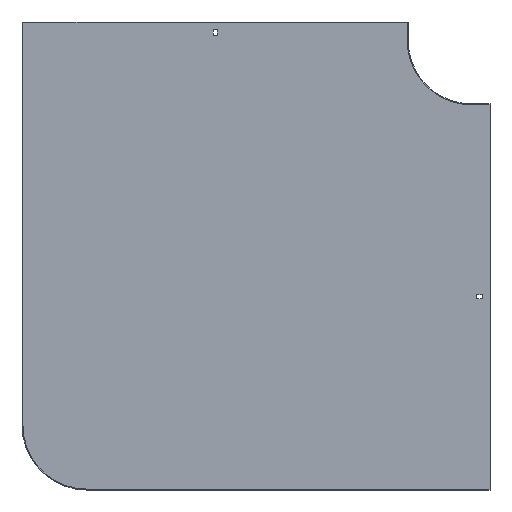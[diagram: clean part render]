
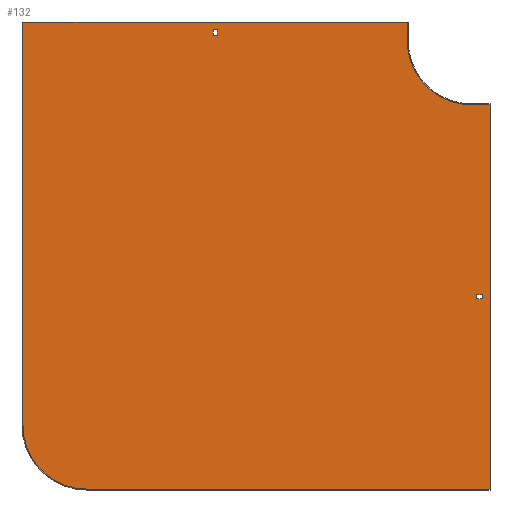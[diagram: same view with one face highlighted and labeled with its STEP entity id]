
A CAD part, front view. The second image highlights one B-rep face of the part: STEP entity #132.
In plain terms, the highlighted planar face has unit normal (0, -1, 0).
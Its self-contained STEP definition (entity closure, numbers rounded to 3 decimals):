
#2 = EDGE_CURVE ( 'NONE', #245, #785, #105, .T. ) ;
#11 = LINE ( 'NONE', #545, #803 ) ;
#12 = CARTESIAN_POINT ( 'NONE',  ( 9., -1.5, -398.75 ) ) ;
#16 = VERTEX_POINT ( 'NONE', #650 ) ;
#17 = VECTOR ( 'NONE', #227, 1000. ) ;
#18 = LINE ( 'NONE', #294, #147 ) ;
#20 = EDGE_CURVE ( 'NONE', #203, #245, #52, .T. ) ;
#21 = VECTOR ( 'NONE', #283, 1000. ) ;
#22 = ORIENTED_EDGE ( 'NONE', *, *, #773, .F. ) ;
#27 = ORIENTED_EDGE ( 'NONE', *, *, #555, .F. ) ;
#51 = CARTESIAN_POINT ( 'NONE',  ( -405.25, -1.5, 9. ) ) ;
#52 = LINE ( 'NONE', #594, #450 ) ;
#58 = EDGE_CURVE ( 'NONE', #239, #442, #133, .T. ) ;
#62 = EDGE_LOOP ( 'NONE', ( #492, #768, #27, #802, #711, #604, #847, #22 ) ) ;
#69 = CARTESIAN_POINT ( 'NONE',  ( 18., -1.5, -405.25 ) ) ;
#88 = ORIENTED_EDGE ( 'NONE', *, *, #697, .F. ) ;
#93 = EDGE_LOOP ( 'NONE', ( #262, #88, #159, #541 ) ) ;
#96 = EDGE_LOOP ( 'NONE', ( #112, #293, #770, #692 ) ) ;
#97 = VECTOR ( 'NONE', #859, 1000. ) ;
#105 = LINE ( 'NONE', #320, #814 ) ;
#110 = CARTESIAN_POINT ( 'NONE',  ( 30., -1.5, -704. ) ) ;
#112 = ORIENTED_EDGE ( 'NONE', *, *, #291, .T. ) ;
#113 = CARTESIAN_POINT ( 'NONE',  ( -405.25, -1.5, 18. ) ) ;
#126 = VERTEX_POINT ( 'NONE', #432 ) ;
#132 = ADVANCED_FACE ( 'NONE', ( #559, #295, #554 ), #163, .T. ) ;
#133 = LINE ( 'NONE', #201, #97 ) ;
#137 = VECTOR ( 'NONE', #171, 1000. ) ;
#147 = VECTOR ( 'NONE', #751, 1000. ) ;
#154 = CARTESIAN_POINT ( 'NONE',  ( -100., -1.5, 30. ) ) ;
#159 = ORIENTED_EDGE ( 'NONE', *, *, #529, .F. ) ;
#161 = CARTESIAN_POINT ( 'NONE',  ( 0., -1.5, 18. ) ) ;
#163 = PLANE ( 'NONE',  #727 ) ;
#171 = DIRECTION ( 'NONE',  ( -1., 0., 0. ) ) ;
#183 = CARTESIAN_POINT ( 'NONE',  ( 30., -1.5, -704. ) ) ;
#197 = LINE ( 'NONE', #110, #137 ) ;
#201 = CARTESIAN_POINT ( 'NONE',  ( 0., -1.5, 9. ) ) ;
#203 = VERTEX_POINT ( 'NONE', #460 ) ;
#227 = DIRECTION ( 'NONE',  ( 1., 0., 0. ) ) ;
#239 = VERTEX_POINT ( 'NONE', #528 ) ;
#240 = VERTEX_POINT ( 'NONE', #69 ) ;
#244 = DIRECTION ( 'NONE',  ( 0., 0., -1. ) ) ;
#245 = VERTEX_POINT ( 'NONE', #467 ) ;
#262 = ORIENTED_EDGE ( 'NONE', *, *, #405, .F. ) ;
#273 = CARTESIAN_POINT ( 'NONE',  ( -604., -1.5, -704. ) ) ;
#276 = VERTEX_POINT ( 'NONE', #273 ) ;
#283 = DIRECTION ( 'NONE',  ( 0., 0., -1. ) ) ;
#285 = EDGE_CURVE ( 'NONE', #442, #360, #11, .T. ) ;
#291 = EDGE_CURVE ( 'NONE', #360, #479, #748, .T. ) ;
#293 = ORIENTED_EDGE ( 'NONE', *, *, #299, .T. ) ;
#294 = CARTESIAN_POINT ( 'NONE',  ( -398.75, -1.5, 0. ) ) ;
#295 = FACE_OUTER_BOUND ( 'NONE', #62, .T. ) ;
#299 = EDGE_CURVE ( 'NONE', #479, #239, #18, .T. ) ;
#301 = DIRECTION ( 'NONE',  ( 1., 0., 0. ) ) ;
#305 = VECTOR ( 'NONE', #301, 1000. ) ;
#308 = CIRCLE ( 'NONE', #756, 100. ) ;
#319 = DIRECTION ( 'NONE',  ( -1., 0., 0. ) ) ;
#320 = CARTESIAN_POINT ( 'NONE',  ( -705.5, -1.5, 30. ) ) ;
#344 = CARTESIAN_POINT ( 'NONE',  ( -100., -1.5, 30. ) ) ;
#360 = VERTEX_POINT ( 'NONE', #113 ) ;
#362 = DIRECTION ( 'NONE',  ( 0., -1., 0. ) ) ;
#378 = CARTESIAN_POINT ( 'NONE',  ( -604., -1.5, -604. ) ) ;
#387 = DIRECTION ( 'NONE',  ( 1., 0., 0. ) ) ;
#405 = EDGE_CURVE ( 'NONE', #517, #639, #579, .T. ) ;
#411 = CARTESIAN_POINT ( 'NONE',  ( 9., -1.5, -405.25 ) ) ;
#413 = DIRECTION ( 'NONE',  ( 0., 0., -1. ) ) ;
#423 = DIRECTION ( 'NONE',  ( 0., 0., -1. ) ) ;
#429 = CARTESIAN_POINT ( 'NONE',  ( 0., -1.5, 0. ) ) ;
#432 = CARTESIAN_POINT ( 'NONE',  ( -100., -1.5, 0. ) ) ;
#442 = VERTEX_POINT ( 'NONE', #51 ) ;
#450 = VECTOR ( 'NONE', #843, 1000. ) ;
#460 = CARTESIAN_POINT ( 'NONE',  ( -704., -1.5, -604. ) ) ;
#467 = CARTESIAN_POINT ( 'NONE',  ( -704., -1.5, 30. ) ) ;
#468 = EDGE_CURVE ( 'NONE', #639, #763, #696, .T. ) ;
#470 = CARTESIAN_POINT ( 'NONE',  ( 30., -1.5, -98.5 ) ) ;
#475 = VECTOR ( 'NONE', #319, 1000. ) ;
#477 = DIRECTION ( 'NONE',  ( 0., 0., 1. ) ) ;
#479 = VERTEX_POINT ( 'NONE', #510 ) ;
#492 = ORIENTED_EDGE ( 'NONE', *, *, #2, .F. ) ;
#499 = VERTEX_POINT ( 'NONE', #183 ) ;
#500 = VECTOR ( 'NONE', #501, 1000. ) ;
#501 = DIRECTION ( 'NONE',  ( 1., 0., 0. ) ) ;
#503 = AXIS2_PLACEMENT_3D ( 'NONE', #378, #630, #786 ) ;
#510 = CARTESIAN_POINT ( 'NONE',  ( -398.75, -1.5, 18. ) ) ;
#517 = VERTEX_POINT ( 'NONE', #590 ) ;
#528 = CARTESIAN_POINT ( 'NONE',  ( -398.75, -1.5, 9. ) ) ;
#529 = EDGE_CURVE ( 'NONE', #763, #240, #563, .T. ) ;
#541 = ORIENTED_EDGE ( 'NONE', *, *, #468, .F. ) ;
#545 = CARTESIAN_POINT ( 'NONE',  ( -405.25, -1.5, 0. ) ) ;
#547 = VECTOR ( 'NONE', #477, 1000. ) ;
#550 = EDGE_CURVE ( 'NONE', #126, #616, #308, .T. ) ;
#554 = FACE_BOUND ( 'NONE', #96, .T. ) ;
#555 = EDGE_CURVE ( 'NONE', #276, #203, #752, .T. ) ;
#556 = CARTESIAN_POINT ( 'NONE',  ( 0., -1.5, 0. ) ) ;
#559 = FACE_BOUND ( 'NONE', #93, .T. ) ;
#563 = LINE ( 'NONE', #746, #17 ) ;
#569 = CARTESIAN_POINT ( 'NONE',  ( 0., -1.5, -398.75 ) ) ;
#576 = EDGE_CURVE ( 'NONE', #499, #276, #197, .T. ) ;
#579 = LINE ( 'NONE', #569, #475 ) ;
#590 = CARTESIAN_POINT ( 'NONE',  ( 18., -1.5, -398.75 ) ) ;
#594 = CARTESIAN_POINT ( 'NONE',  ( -704., -1.5, -604. ) ) ;
#604 = ORIENTED_EDGE ( 'NONE', *, *, #823, .F. ) ;
#616 = VERTEX_POINT ( 'NONE', #841 ) ;
#624 = CARTESIAN_POINT ( 'NONE',  ( 0., -1.5, -100. ) ) ;
#627 = CARTESIAN_POINT ( 'NONE',  ( 9., -1.5, 0. ) ) ;
#630 = DIRECTION ( 'NONE',  ( 0., 1., 0. ) ) ;
#639 = VERTEX_POINT ( 'NONE', #12 ) ;
#650 = CARTESIAN_POINT ( 'NONE',  ( 30., -1.5, -100. ) ) ;
#670 = LINE ( 'NONE', #470, #694 ) ;
#673 = LINE ( 'NONE', #154, #21 ) ;
#692 = ORIENTED_EDGE ( 'NONE', *, *, #285, .T. ) ;
#694 = VECTOR ( 'NONE', #413, 1000. ) ;
#696 = LINE ( 'NONE', #627, #737 ) ;
#697 = EDGE_CURVE ( 'NONE', #240, #517, #717, .T. ) ;
#711 = ORIENTED_EDGE ( 'NONE', *, *, #766, .F. ) ;
#717 = LINE ( 'NONE', #855, #547 ) ;
#722 = DIRECTION ( 'NONE',  ( 0., 0., -1. ) ) ;
#727 = AXIS2_PLACEMENT_3D ( 'NONE', #429, #362, #423 ) ;
#737 = VECTOR ( 'NONE', #244, 1000. ) ;
#746 = CARTESIAN_POINT ( 'NONE',  ( 0., -1.5, -405.25 ) ) ;
#748 = LINE ( 'NONE', #161, #305 ) ;
#751 = DIRECTION ( 'NONE',  ( 0., 0., -1. ) ) ;
#752 = CIRCLE ( 'NONE', #503, 100. ) ;
#756 = AXIS2_PLACEMENT_3D ( 'NONE', #556, #851, #722 ) ;
#763 = VERTEX_POINT ( 'NONE', #411 ) ;
#766 = EDGE_CURVE ( 'NONE', #16, #499, #670, .T. ) ;
#768 = ORIENTED_EDGE ( 'NONE', *, *, #20, .F. ) ;
#770 = ORIENTED_EDGE ( 'NONE', *, *, #58, .T. ) ;
#773 = EDGE_CURVE ( 'NONE', #785, #126, #673, .T. ) ;
#785 = VERTEX_POINT ( 'NONE', #344 ) ;
#786 = DIRECTION ( 'NONE',  ( 0., 0., -1. ) ) ;
#802 = ORIENTED_EDGE ( 'NONE', *, *, #576, .F. ) ;
#803 = VECTOR ( 'NONE', #805, 1000. ) ;
#805 = DIRECTION ( 'NONE',  ( 0., 0., 1. ) ) ;
#814 = VECTOR ( 'NONE', #387, 1000. ) ;
#815 = LINE ( 'NONE', #624, #500 ) ;
#823 = EDGE_CURVE ( 'NONE', #616, #16, #815, .T. ) ;
#841 = CARTESIAN_POINT ( 'NONE',  ( 0., -1.5, -100. ) ) ;
#843 = DIRECTION ( 'NONE',  ( 0., 0., 1. ) ) ;
#847 = ORIENTED_EDGE ( 'NONE', *, *, #550, .F. ) ;
#851 = DIRECTION ( 'NONE',  ( 0., -1., 0. ) ) ;
#855 = CARTESIAN_POINT ( 'NONE',  ( 18., -1.5, 0. ) ) ;
#859 = DIRECTION ( 'NONE',  ( -1., 0., 0. ) ) ;
